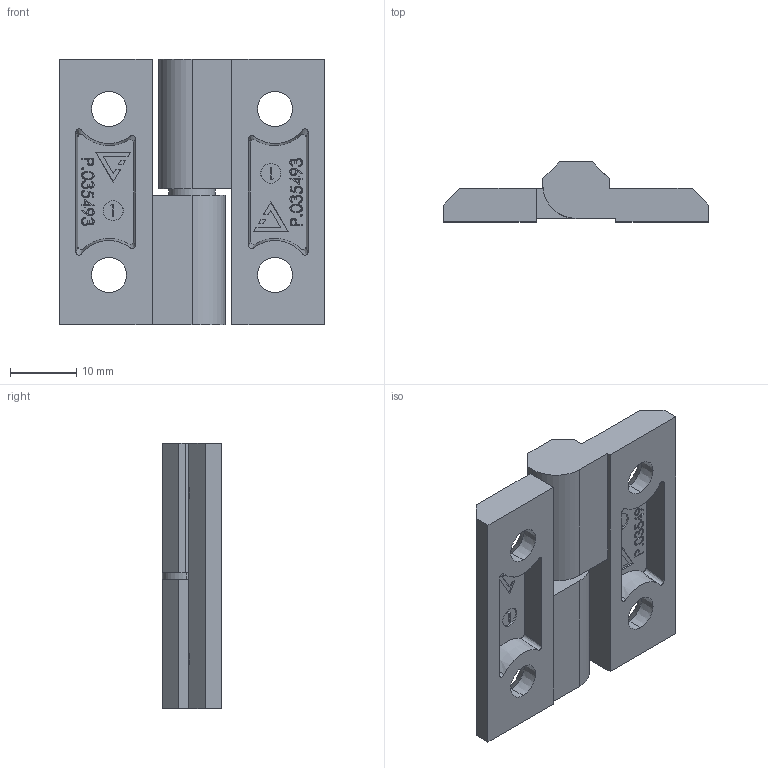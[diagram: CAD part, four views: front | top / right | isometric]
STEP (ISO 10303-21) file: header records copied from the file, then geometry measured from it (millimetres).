
FILE_DESCRIPTION (( 'STEP AP214' ), '1' );
FILE_NAME ('3.ZN60.201.STEP', '2024-01-05T13:48:17', ( '' ), ( '' ), 'SwSTEP 2.0', 'SolidWorks 2021', '' );
FILE_SCHEMA (( 'AUTOMOTIVE_DESIGN' ));
Length unit declared in the file: millimetre
Products named in the file (4): P.035493_00-00; P.035494_00-00; 3.ZN60.201; P.035495_00-00
Assembly tree (4 placements, depth 2):
  3.ZN60.201
    P.035493_00-00  x2
    P.035495_00-00
    P.035494_00-00
Bounding box: 40 x 9 x 40 mm (x, y, z)
Volume: 6684.1 mm3; surface area: 5889.8 mm2
Topology: 4 solids, 4 shells, 486 faces, 1248 edges, 828 vertices
Faces by surface type: plane 310, bspline 136, cone 28, cylinder 12
Entity records: 13160 total; most frequent: CARTESIAN_POINT 5822, ORIENTED_EDGE 1586, DIRECTION 1075, EDGE_CURVE 793, VERTEX_POINT 526, VECTOR 479, LINE 479, EDGE_LOOP 363
